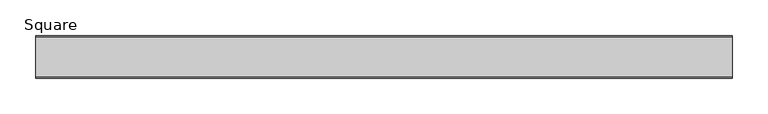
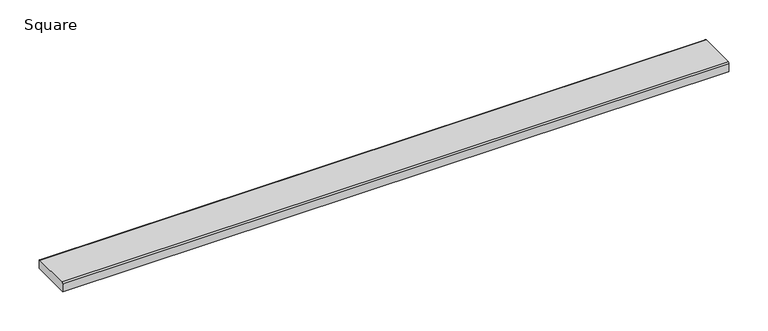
"""IFC4 building model written with IfcOpenShell, lengths in millimetres: sanitary terminal geometry, ZZZ_do not use_PF_ST_UN_grating ShowerDrain C GE_ACO : Square."""

from ifc_helpers import new_model, si_unit, point, frame, frame_2d, origin, place, context, project, spatial, polyline, circle_curve, trimmed, segment, composite_curve, outline, extrude, source, transform, mapped, element, save


def square_a25dd00a(model_context):
    return source(origin(), model_context, "Body", "SweptSolid", [
        extrude(outline(composite_curve([segment(polyline([(30.0, -14.0), (-30.0, -14.0), (-30.0, -1.977849)]), True, "CONTINUOUS"), segment(trimmed(circle_curve(frame_2d((-28.022151, -1.977849)), 1.977849), [point((-30.0, -1.977849))], [point((-28.022151, 0.0))], False, "CARTESIAN"), True, "CONTINUOUS"), segment(polyline([(-28.022151, 0.0), (28.022151, 0.0)]), True, "CONTINUOUS"), segment(trimmed(circle_curve(frame_2d((28.022151, -1.977849)), 1.977849), [point((28.022151, 0.0))], [point((30.0, -1.977849))], False, "CARTESIAN"), True, "CONTINUOUS"), segment(polyline([(30.0, -1.977849), (30.0, -14.0)]), True, "CONTINUOUS")], self_intersect=False)), frame((-490.5, 0.0, 0.0), z_axis=(1.0, 0.0, 0.0), x_axis=(0.0, 1.0, 0.0)), (0.0, 0.0, 1.0), 981.0),
    ])


if __name__ == "__main__":
    model = new_model("IFC4")
    model_context = context("Model", 3, world=origin())
    ifc_project = project(units=[si_unit("LENGTHUNIT", "METRE", prefix="MILLI")], contexts=[model_context])
    site = spatial("IfcSite", under=ifc_project)
    building = spatial("IfcBuilding", under=site)
    placement = place(None, origin())
    square_shape = square_a25dd00a(model_context)
    element("IfcSanitaryTerminal", 1, ObjectType="ZZZ_do not use_PF_ST_UN_grating ShowerDrain C GE_ACO : Square", at=placement, inside=building, context=model_context, shape_type="MappedRepresentation", body=[
        mapped(square_shape, transform((0.0, 0.0, 0.0), x_axis=(1.0, 0.0, 0.0), y_axis=(0.0, 1.0, 0.0), z_axis=(0.0, 0.0, 1.0))),
    ])
    save(model, "model.ifc")
